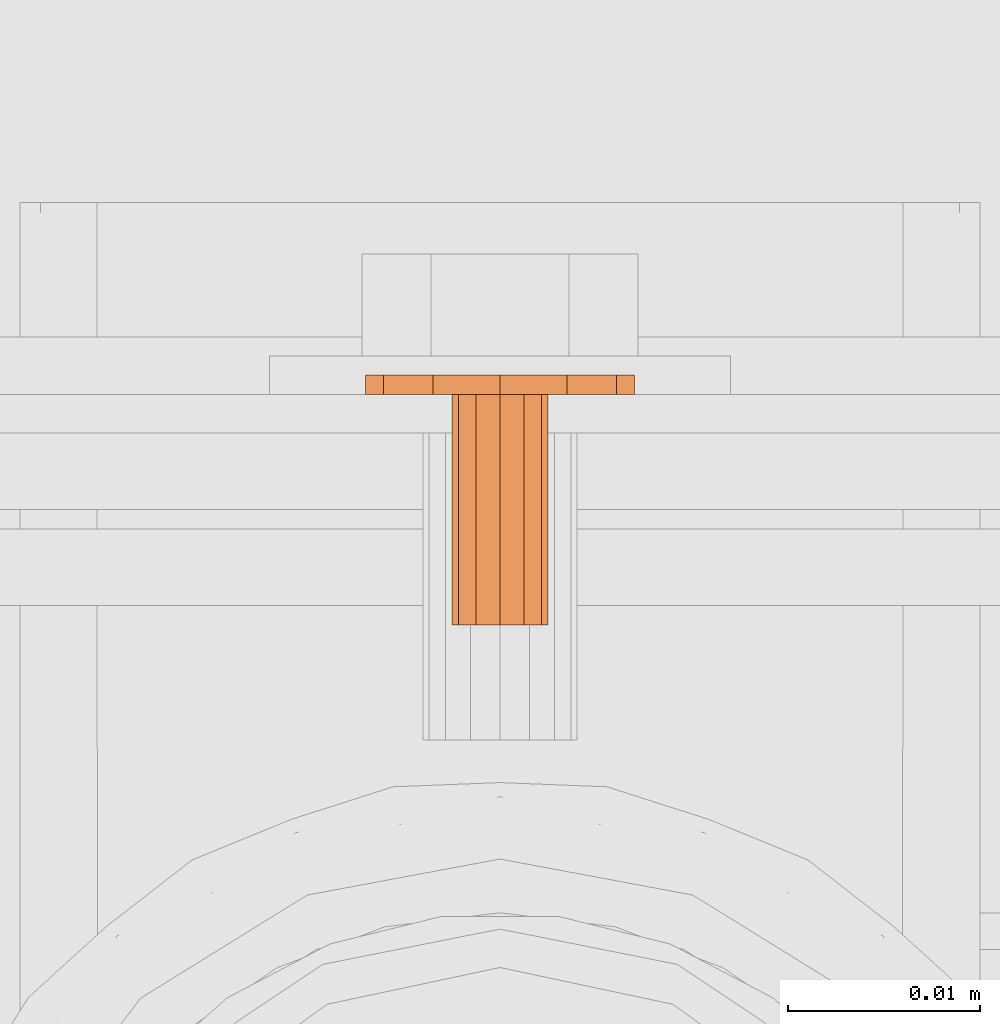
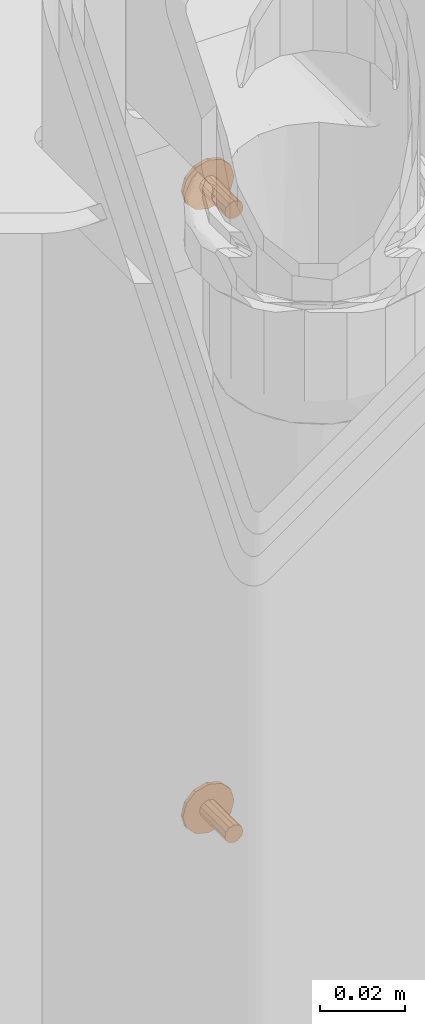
# One storey, part 131 of 162: 2 proxies.
"""IFC2X3 building model written with IfcOpenShell, lengths in millimetres."""

from ifc_helpers import new_model, entity, si_unit, converted_unit, origin_with_axes, place, context, project, spatial, faceted_brep, material, element, save


model = new_model("IFC2X3")

# Units and contexts
model_context = context("Model", 3, precision=1e-09, world=origin_with_axes())
ifc_project = project(units=[si_unit("LENGTHUNIT", "METRE", prefix="MILLI"), si_unit("AREAUNIT", "SQUARE_METRE"), si_unit("VOLUMEUNIT", "CUBIC_METRE"), converted_unit("PLANEANGLEUNIT", "DEGREE", entity("IfcPlaneAngleMeasure", 0.01745329), si_unit("PLANEANGLEUNIT", "RADIAN"), dimensions=[0, 0, 0, 0, 0, 0, 0])], contexts=[model_context])

# Site, building, storey
site_placement = place(None, origin_with_axes())
site = spatial("IfcSite", under=ifc_project, at=site_placement, Name="Hermannstra?e 1a, 60318 Frankfurt", CompositionType="ELEMENT")
building_placement = place(site_placement, origin_with_axes())
building = spatial("IfcBuilding", under=site, at=building_placement, Name="Struktur 1", CompositionType="ELEMENT")
storey_placement = place(building_placement, origin_with_axes())
storey = spatial("IfcBuildingStorey", under=building, at=storey_placement, Name="Default Storey", CompositionType="ELEMENT", Elevation=0.0)

# Proxies
ifc_material = material(Name="Kein")
proxy_1_placement = place(None, origin_with_axes())
element("IfcBuildingElementProxy", 1, at=proxy_1_placement, inside=storey, material=ifc_material, ObjectType="-", context=model_context, shape_type="Brep", body=[
    faceted_brep([(5466.30936482, 1582.609373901, 3695.0), (5466.30936482, 1583.609373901, 3695.0), (5467.247186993, 1583.609373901, 3691.5), (5467.247186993, 1582.609373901, 3691.5), (5467.247186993, 1582.609373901, 3698.5), (5467.247186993, 1583.609373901, 3698.5), (5476.80936482, 1583.609373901, 3701.062177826), (5479.371542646, 1583.609373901, 3698.5), (5480.30936482, 1583.609373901, 3695.0), (5479.371542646, 1583.609373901, 3691.5), (5476.80936482, 1583.609373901, 3688.937822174), (5473.30936482, 1583.609373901, 3688.0), (5469.80936482, 1583.609373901, 3688.937822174), (5469.80936482, 1583.609373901, 3701.062177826), (5473.30936482, 1583.609373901, 3702.0), (5476.80936482, 1582.609373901, 3688.937822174), (5479.371542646, 1582.609373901, 3691.5), (5480.30936482, 1582.609373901, 3695.0), (5479.371542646, 1582.609373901, 3698.5), (5476.80936482, 1582.609373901, 3701.062177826), (5473.30936482, 1582.609373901, 3702.0), (5469.80936482, 1582.609373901, 3701.062177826), (5469.80936482, 1582.609373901, 3688.937822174), (5473.30936482, 1582.609373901, 3688.0)], [[[0, 1, 2, 3]], [[1, 0, 4, 5]], [[6, 7, 8, 9, 10, 11, 12, 2, 1, 5, 13, 14]], [[15, 16, 17, 18, 19, 20, 21, 4, 0, 3, 22, 23]], [[3, 2, 12, 22]], [[5, 4, 21, 13]], [[11, 23, 22, 12]], [[10, 15, 23, 11]], [[13, 21, 20, 14]], [[16, 9, 8, 17]], [[15, 10, 9, 16]], [[17, 8, 7, 18]], [[14, 20, 19, 6]], [[18, 7, 6, 19]]]),
    faceted_brep([(5470.80936482, 1570.609373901, 3695.0), (5470.80936482, 1582.609373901, 3695.0), (5471.14430131, 1582.609373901, 3693.75), (5471.14430131, 1570.609373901, 3693.75), (5471.14430131, 1570.609373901, 3696.25), (5471.14430131, 1582.609373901, 3696.25), (5474.55936482, 1582.609373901, 3697.165063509), (5475.474428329, 1582.609373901, 3696.25), (5475.80936482, 1582.609373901, 3695.0), (5475.474428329, 1582.609373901, 3693.75), (5474.55936482, 1582.609373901, 3692.834936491), (5473.30936482, 1582.609373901, 3692.5), (5472.05936482, 1582.609373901, 3692.834936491), (5472.05936482, 1582.609373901, 3697.165063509), (5473.30936482, 1582.609373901, 3697.5), (5474.55936482, 1570.609373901, 3692.834936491), (5475.474428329, 1570.609373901, 3693.75), (5475.80936482, 1570.609373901, 3695.0), (5475.474428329, 1570.609373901, 3696.25), (5474.55936482, 1570.609373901, 3697.165063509), (5473.30936482, 1570.609373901, 3697.5), (5472.05936482, 1570.609373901, 3697.165063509), (5472.05936482, 1570.609373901, 3692.834936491), (5473.30936482, 1570.609373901, 3692.5)], [[[0, 1, 2, 3]], [[1, 0, 4, 5]], [[6, 7, 8, 9, 10, 11, 12, 2, 1, 5, 13, 14]], [[15, 16, 17, 18, 19, 20, 21, 4, 0, 3, 22, 23]], [[3, 2, 12, 22]], [[5, 4, 21, 13]], [[11, 23, 22, 12]], [[10, 15, 23, 11]], [[13, 21, 20, 14]], [[16, 9, 8, 17]], [[15, 10, 9, 16]], [[17, 8, 7, 18]], [[14, 20, 19, 6]], [[18, 7, 6, 19]]]),
])
proxy_2_placement = place(None, origin_with_axes())
element("IfcBuildingElementProxy", 2, at=proxy_2_placement, inside=storey, material=ifc_material, ObjectType="-", context=model_context, shape_type="Brep", body=[
    faceted_brep([(5466.30936482, 1582.609373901, 3515.0), (5466.30936482, 1583.609373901, 3515.0), (5467.247186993, 1583.609373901, 3511.5), (5467.247186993, 1582.609373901, 3511.5), (5467.247186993, 1582.609373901, 3518.5), (5467.247186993, 1583.609373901, 3518.5), (5476.80936482, 1583.609373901, 3521.062177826), (5479.371542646, 1583.609373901, 3518.5), (5480.30936482, 1583.609373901, 3515.0), (5479.371542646, 1583.609373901, 3511.5), (5476.80936482, 1583.609373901, 3508.937822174), (5473.30936482, 1583.609373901, 3508.0), (5469.80936482, 1583.609373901, 3508.937822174), (5469.80936482, 1583.609373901, 3521.062177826), (5473.30936482, 1583.609373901, 3522.0), (5476.80936482, 1582.609373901, 3508.937822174), (5479.371542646, 1582.609373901, 3511.5), (5480.30936482, 1582.609373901, 3515.0), (5479.371542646, 1582.609373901, 3518.5), (5476.80936482, 1582.609373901, 3521.062177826), (5473.30936482, 1582.609373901, 3522.0), (5469.80936482, 1582.609373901, 3521.062177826), (5469.80936482, 1582.609373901, 3508.937822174), (5473.30936482, 1582.609373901, 3508.0)], [[[0, 1, 2, 3]], [[1, 0, 4, 5]], [[6, 7, 8, 9, 10, 11, 12, 2, 1, 5, 13, 14]], [[15, 16, 17, 18, 19, 20, 21, 4, 0, 3, 22, 23]], [[3, 2, 12, 22]], [[5, 4, 21, 13]], [[11, 23, 22, 12]], [[10, 15, 23, 11]], [[13, 21, 20, 14]], [[16, 9, 8, 17]], [[15, 10, 9, 16]], [[17, 8, 7, 18]], [[14, 20, 19, 6]], [[18, 7, 6, 19]]]),
    faceted_brep([(5470.80936482, 1570.609373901, 3515.0), (5470.80936482, 1582.609373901, 3515.0), (5471.14430131, 1582.609373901, 3513.75), (5471.14430131, 1570.609373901, 3513.75), (5471.14430131, 1570.609373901, 3516.25), (5471.14430131, 1582.609373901, 3516.25), (5474.55936482, 1582.609373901, 3517.165063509), (5475.474428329, 1582.609373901, 3516.25), (5475.80936482, 1582.609373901, 3515.0), (5475.474428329, 1582.609373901, 3513.75), (5474.55936482, 1582.609373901, 3512.834936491), (5473.30936482, 1582.609373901, 3512.5), (5472.05936482, 1582.609373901, 3512.834936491), (5472.05936482, 1582.609373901, 3517.165063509), (5473.30936482, 1582.609373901, 3517.5), (5474.55936482, 1570.609373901, 3512.834936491), (5475.474428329, 1570.609373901, 3513.75), (5475.80936482, 1570.609373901, 3515.0), (5475.474428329, 1570.609373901, 3516.25), (5474.55936482, 1570.609373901, 3517.165063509), (5473.30936482, 1570.609373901, 3517.5), (5472.05936482, 1570.609373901, 3517.165063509), (5472.05936482, 1570.609373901, 3512.834936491), (5473.30936482, 1570.609373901, 3512.5)], [[[0, 1, 2, 3]], [[1, 0, 4, 5]], [[6, 7, 8, 9, 10, 11, 12, 2, 1, 5, 13, 14]], [[15, 16, 17, 18, 19, 20, 21, 4, 0, 3, 22, 23]], [[3, 2, 12, 22]], [[5, 4, 21, 13]], [[11, 23, 22, 12]], [[10, 15, 23, 11]], [[13, 21, 20, 14]], [[16, 9, 8, 17]], [[15, 10, 9, 16]], [[17, 8, 7, 18]], [[14, 20, 19, 6]], [[18, 7, 6, 19]]]),
])

save(model, "model.ifc")
